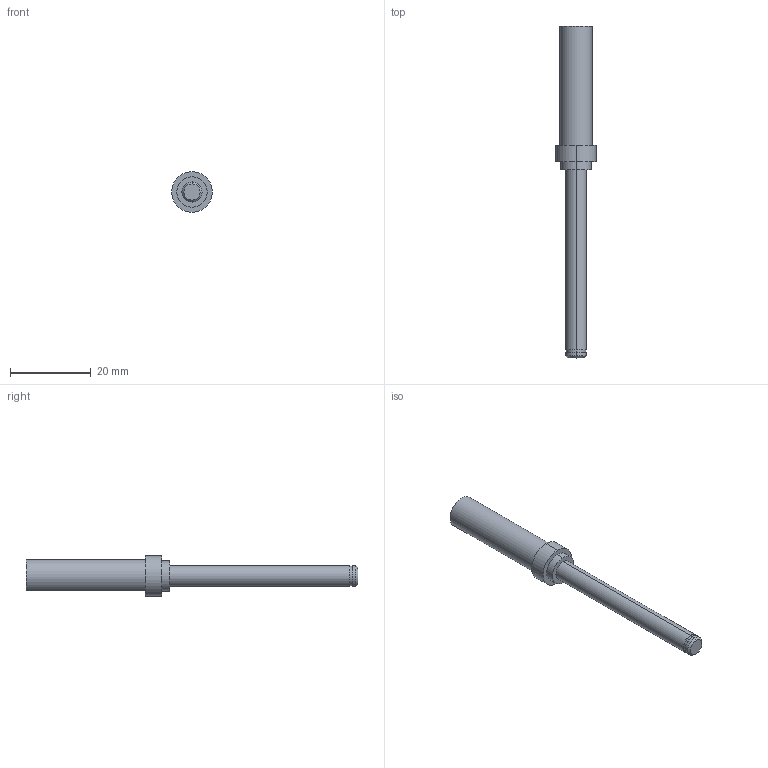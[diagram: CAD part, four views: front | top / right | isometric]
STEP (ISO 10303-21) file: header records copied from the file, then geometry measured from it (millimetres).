
FILE_DESCRIPTION (( 'STEP AP214' ), '1' );
FILE_NAME ('GZ21.32_V1絳砃謫翋雄粣.STEP', '2021-02-28T16:54:18', ( 'hp' ), ( '' ), 'SwSTEP 2.0', 'SolidWorks 2017', '' );
FILE_SCHEMA (( 'AUTOMOTIVE_DESIGN' ));
Length unit declared in the file: millimetre
Products named in the file (1): GZ21.32_V1絳砃謫翋雄粣
Bounding box: 10 x 82 x 10 mm (x, y, z)
Volume: 2756.9 mm3; surface area: 1794.4 mm2
Topology: 1 solids, 1 shells, 21 faces, 40 edges, 26 vertices
Faces by surface type: cylinder 11, plane 8, cone 2
Entity records: 576 total; most frequent: DIRECTION 108, CARTESIAN_POINT 88, ORIENTED_EDGE 80, AXIS2_PLACEMENT_3D 46, EDGE_CURVE 40, VERTEX_POINT 26, EDGE_LOOP 26, CIRCLE 24
